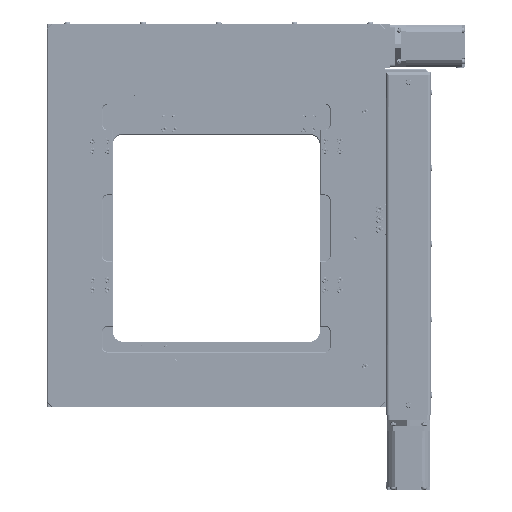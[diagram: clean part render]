
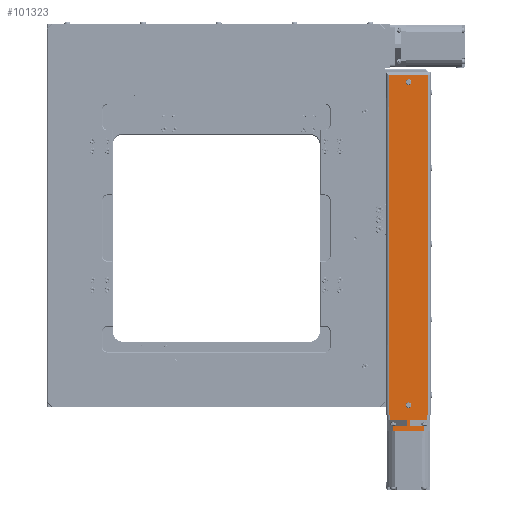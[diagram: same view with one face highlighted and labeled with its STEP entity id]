
A CAD part, top view. The second image highlights one B-rep face of the part: STEP entity #101323.
In plain terms, the highlighted planar face has unit normal (0, 0, 1).
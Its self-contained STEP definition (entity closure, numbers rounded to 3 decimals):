
#2823=FACE_BOUND('',#14380,.T.);
#2824=FACE_BOUND('',#14381,.T.);
#4315=PLANE('',#108589);
#8258=FACE_OUTER_BOUND('',#14379,.T.);
#14379=EDGE_LOOP('',(#69334,#69335,#69336,#69337,#69338,#69339,#69340,#69341,
#69342,#69343,#69344,#69345,#69346,#69347,#69348,#69349));
#14380=EDGE_LOOP('',(#69350));
#14381=EDGE_LOOP('',(#69351));
#21678=CIRCLE('',#108590,2.85);
#21679=CIRCLE('',#108591,2.85);
#26196=LINE('',#150230,#34152);
#26214=LINE('',#150300,#34170);
#26232=LINE('',#150336,#34188);
#26235=LINE('',#150342,#34191);
#26245=LINE('',#150365,#34201);
#26246=LINE('',#150369,#34202);
#26254=LINE('',#150396,#34210);
#26256=LINE('',#150400,#34212);
#26257=LINE('',#150403,#34213);
#26259=LINE('',#150406,#34215);
#26266=LINE('',#150420,#34222);
#26269=LINE('',#150428,#34225);
#26270=LINE('',#150431,#34226);
#26792=LINE('',#152581,#34748);
#26797=LINE('',#152595,#34753);
#26798=LINE('',#152596,#34754);
#34152=VECTOR('',#120073,10.);
#34170=VECTOR('',#120135,10.);
#34188=VECTOR('',#120163,10.);
#34191=VECTOR('',#120168,10.);
#34201=VECTOR('',#120184,10.);
#34202=VECTOR('',#120189,10.);
#34210=VECTOR('',#120219,10.);
#34212=VECTOR('',#120223,10.);
#34213=VECTOR('',#120226,10.);
#34215=VECTOR('',#120230,10.);
#34222=VECTOR('',#120247,10.);
#34225=VECTOR('',#120254,10.);
#34226=VECTOR('',#120257,10.);
#34748=VECTOR('',#122311,10.);
#34753=VECTOR('',#122324,10.);
#34754=VECTOR('',#122325,10.);
#42277=VERTEX_POINT('',#150227);
#42278=VERTEX_POINT('',#150229);
#42306=VERTEX_POINT('',#150296);
#42308=VERTEX_POINT('',#150299);
#42323=VERTEX_POINT('',#150340);
#42332=VERTEX_POINT('',#150362);
#42333=VERTEX_POINT('',#150364);
#42334=VERTEX_POINT('',#150368);
#42341=VERTEX_POINT('',#150392);
#42342=VERTEX_POINT('',#150394);
#42343=VERTEX_POINT('',#150398);
#42344=VERTEX_POINT('',#150402);
#42349=VERTEX_POINT('',#150426);
#42350=VERTEX_POINT('',#150430);
#42984=VERTEX_POINT('',#152580);
#42989=VERTEX_POINT('',#152594);
#42990=VERTEX_POINT('',#152597);
#42991=VERTEX_POINT('',#152599);
#52100=EDGE_CURVE('',#42277,#42278,#26196,.T.);
#52134=EDGE_CURVE('',#42308,#42306,#26214,.T.);
#52153=EDGE_CURVE('',#42278,#42306,#26232,.T.);
#52156=EDGE_CURVE('',#42323,#42277,#26235,.T.);
#52167=EDGE_CURVE('',#42332,#42333,#26245,.T.);
#52169=EDGE_CURVE('',#42334,#42333,#26246,.T.);
#52183=EDGE_CURVE('',#42342,#42341,#26254,.T.);
#52185=EDGE_CURVE('',#42342,#42343,#26256,.T.);
#52186=EDGE_CURVE('',#42344,#42334,#26257,.T.);
#52188=EDGE_CURVE('',#42343,#42308,#26259,.T.);
#52195=EDGE_CURVE('',#42323,#42344,#26266,.T.);
#52199=EDGE_CURVE('',#42332,#42349,#26269,.T.);
#52200=EDGE_CURVE('',#42350,#42341,#26270,.T.);
#53170=EDGE_CURVE('',#42350,#42984,#26792,.T.);
#53177=EDGE_CURVE('',#42349,#42989,#26797,.T.);
#53178=EDGE_CURVE('',#42984,#42989,#26798,.T.);
#53179=EDGE_CURVE('',#42990,#42990,#21678,.T.);
#53180=EDGE_CURVE('',#42991,#42991,#21679,.T.);
#69334=ORIENTED_EDGE('',*,*,#53177,.T.);
#69335=ORIENTED_EDGE('',*,*,#53178,.F.);
#69336=ORIENTED_EDGE('',*,*,#53170,.F.);
#69337=ORIENTED_EDGE('',*,*,#52200,.T.);
#69338=ORIENTED_EDGE('',*,*,#52183,.F.);
#69339=ORIENTED_EDGE('',*,*,#52185,.T.);
#69340=ORIENTED_EDGE('',*,*,#52188,.T.);
#69341=ORIENTED_EDGE('',*,*,#52134,.T.);
#69342=ORIENTED_EDGE('',*,*,#52153,.F.);
#69343=ORIENTED_EDGE('',*,*,#52100,.F.);
#69344=ORIENTED_EDGE('',*,*,#52156,.F.);
#69345=ORIENTED_EDGE('',*,*,#52195,.T.);
#69346=ORIENTED_EDGE('',*,*,#52186,.T.);
#69347=ORIENTED_EDGE('',*,*,#52169,.T.);
#69348=ORIENTED_EDGE('',*,*,#52167,.F.);
#69349=ORIENTED_EDGE('',*,*,#52199,.T.);
#69350=ORIENTED_EDGE('',*,*,#53179,.T.);
#69351=ORIENTED_EDGE('',*,*,#53180,.T.);
#101323=ADVANCED_FACE('',(#8258,#2823,#2824),#4315,.T.);
#108589=AXIS2_PLACEMENT_3D('',#152593,#122322,#122323);
#108590=AXIS2_PLACEMENT_3D('',#152598,#122326,#122327);
#108591=AXIS2_PLACEMENT_3D('',#152600,#122328,#122329);
#120073=DIRECTION('',(-1.,0.,0.));
#120135=DIRECTION('',(-1.,0.,0.));
#120163=DIRECTION('',(0.,1.,0.));
#120168=DIRECTION('',(0.,-1.,0.));
#120184=DIRECTION('',(0.,-1.,0.));
#120189=DIRECTION('',(1.,0.,0.));
#120219=DIRECTION('',(0.,1.,0.));
#120223=DIRECTION('',(1.,0.,0.));
#120226=DIRECTION('',(0.,1.,0.));
#120230=DIRECTION('',(0.,-1.,0.));
#120247=DIRECTION('',(-1.,0.,0.));
#120254=DIRECTION('',(1.,0.,0.));
#120257=DIRECTION('',(1.,0.,0.));
#122311=DIRECTION('',(0.,1.,0.));
#122322=DIRECTION('center_axis',(0.,0.,
1.));
#122323=DIRECTION('ref_axis',(1.,0.,0.));
#122324=DIRECTION('',(0.,1.,0.));
#122325=DIRECTION('',(1.,0.,0.));
#122326=DIRECTION('center_axis',(0.,0.,
-1.));
#122327=DIRECTION('ref_axis',(0.5,-0.866,0.));
#122328=DIRECTION('center_axis',(0.,0.,
-1.));
#122329=DIRECTION('ref_axis',(0.,1.,0.));
#150227=CARTESIAN_POINT('',(373.,-763.368,42.));
#150229=CARTESIAN_POINT('',(343.,-763.368,42.));
#150230=CARTESIAN_POINT('',(379.,-763.368,42.));
#150296=CARTESIAN_POINT('',(343.,-758.368,42.));
#150299=CARTESIAN_POINT('',(356.373,-758.368,42.));
#150300=CARTESIAN_POINT('',(368.5,-758.368,42.));
#150336=CARTESIAN_POINT('',(343.,-748.368,42.));
#150340=CARTESIAN_POINT('',(373.,-758.368,42.));
#150342=CARTESIAN_POINT('',(373.,-748.368,42.));
#150362=CARTESIAN_POINT('',(376.,-748.368,42.));
#150364=CARTESIAN_POINT('',(376.,-753.368,42.));
#150365=CARTESIAN_POINT('',(376.,-748.368,42.));
#150368=CARTESIAN_POINT('',(359.627,-753.368,42.));
#150369=CARTESIAN_POINT('',(368.5,-753.368,42.));
#150392=CARTESIAN_POINT('',(340.,-748.368,42.));
#150394=CARTESIAN_POINT('',(340.,-753.368,42.));
#150396=CARTESIAN_POINT('',(340.,-748.368,42.));
#150398=CARTESIAN_POINT('',(356.373,-753.368,42.));
#150400=CARTESIAN_POINT('',(368.5,-753.368,42.));
#150402=CARTESIAN_POINT('',(359.627,-758.368,42.));
#150403=CARTESIAN_POINT('',(359.627,-750.868,42.));
#150406=CARTESIAN_POINT('',(356.373,-750.868,42.));
#150420=CARTESIAN_POINT('',(368.5,-758.368,42.));
#150426=CARTESIAN_POINT('',(377.,-748.368,42.));
#150428=CARTESIAN_POINT('',(336.,-748.368,42.));
#150430=CARTESIAN_POINT('',(339.,-748.368,42.));
#150431=CARTESIAN_POINT('',(336.,-748.368,42.));
#152580=CARTESIAN_POINT('',(339.,-411.368,42.));
#152581=CARTESIAN_POINT('',(339.,-748.368,42.));
#152593=CARTESIAN_POINT('Origin',(336.,-748.368,42.));
#152594=CARTESIAN_POINT('',(377.,-411.368,42.));
#152595=CARTESIAN_POINT('',(377.,-578.368,42.));
#152596=CARTESIAN_POINT('',(369.,-411.368,42.));
#152597=CARTESIAN_POINT('',(360.468,-736.943,42.));
#152598=CARTESIAN_POINT('Origin',(358.,-738.368,42.));
#152599=CARTESIAN_POINT('',(360.468,-416.943,42.));
#152600=CARTESIAN_POINT('Origin',(358.,-418.368,42.));
